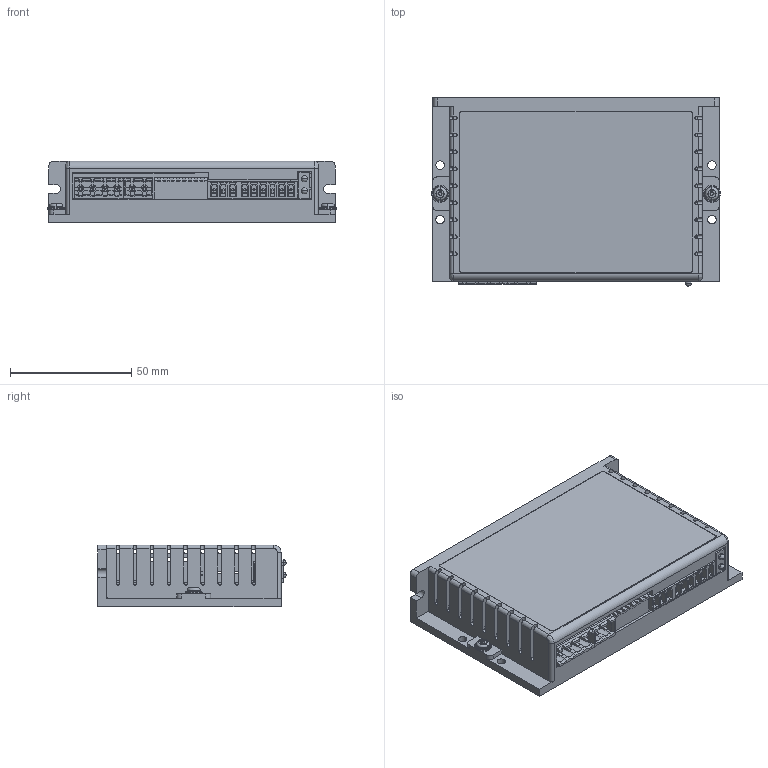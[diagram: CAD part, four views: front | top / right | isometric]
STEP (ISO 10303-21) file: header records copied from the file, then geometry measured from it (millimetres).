
FILE_DESCRIPTION( ('This file contains a STEP AP42 implementation' ,'as created by ZW3D STEP Interface translator.' ,'') ,'2;1' );
FILE_NAME( 'WM540.stp' ,'26 117.101911', (''), ('ZWCAD Software Co.'), 'Version 1.0', 'ZW3D to STEP translator', '' );
FILE_SCHEMA(('AUTOMOTIVE_DESIGN { 1 0 10303 214 1 1 1 1 }'));
Length unit declared in the file: millimetre
Products named in the file (1): 0
Bounding box: 119 x 77.6 x 25.5 mm (x, y, z)
Volume: 80751.6 mm3; surface area: 68821.4 mm2
Topology: 1 solids, 3 shells, 1530 faces, 4190 edges, 2697 vertices
Faces by surface type: plane 1281, cylinder 205, cone 18, torus 16, bspline 6, sphere 4
Entity records: 52998 total; most frequent: CARTESIAN_POINT 12508, ORIENTED_EDGE 8364, DIRECTION 7554, EDGE_CURVE 4182, VECTOR 3624, LINE 3624, VERTEX_POINT 2697, AXIS2_PLACEMENT_3D 1965
